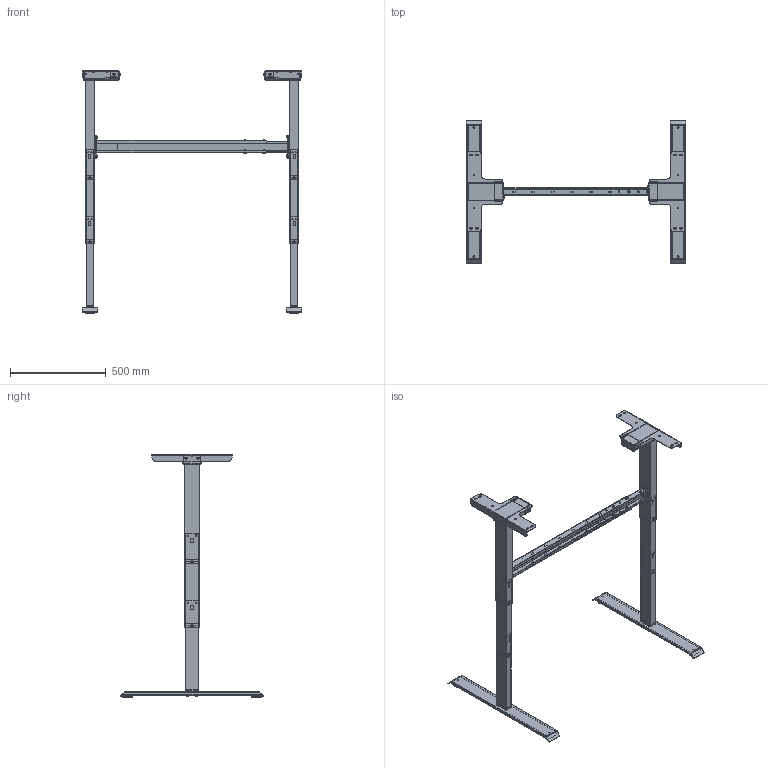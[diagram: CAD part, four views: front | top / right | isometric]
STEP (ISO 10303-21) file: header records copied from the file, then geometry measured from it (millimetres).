
FILE_DESCRIPTION(/* description */ ('Unknown'),/* implementation_level */ '2;1');
FILE_NAME(/* name */ 'Untergestell EBI 2655 S XX XX_00-Ausgefahren',/* time_stamp */ '2026-09-11T13:09:35+02:00',/* author */ ('Unknown'),/* organization */ ('Unknown'),/* preprocessor_version */ 'ST-DEVELOPER v20',/* originating_system */ 'Solid Edge',/* authorisation */ 'Unknown');
FILE_SCHEMA (('AUTOMOTIVE_DESIGN {1 0 10303 214 3 1 1}'));
Products named in the file (19): Untergestell EBI 2655 S XX XX; 127.00826; 127.00828_ohne Regulierfuss; Regulierfuss; 804.00047; EBI Aussenprofil; EBI Mittelprofil; EBI Innenprofil; EBI S Aussenprofil; 127.00846; E1 Traverse aussen S; E1 Traverse innen S; Halbrundkopfschraube M6x16; Scheibe ﾘ6,4; Sechskantmutter M6; Halbrundkopfschraube M8x10; 127.00803; Senkschraube M6x12 S; Halbrundkopfschraube M6x32 S
Assembly tree (46 placements, depth 3):
  Untergestell EBI 2655 S XX XX
    127.00826  x2
      127.00828_ohne Regulierfuss
      Regulierfuss
    804.00047  x2
      EBI Aussenprofil
      EBI Mittelprofil
      EBI Innenprofil
      EBI S Aussenprofil
    127.00846
      E1 Traverse aussen S
      E1 Traverse innen S
      Halbrundkopfschraube M6x16  x4
      Scheibe ﾘ6,4  x4
      Sechskantmutter M6  x4
      Halbrundkopfschraube M8x10  x4
    127.00803  x2
    Senkschraube M6x12 S  x8
    Halbrundkopfschraube M6x32 S  x6
Bounding box: 1145.99 x 749.98 x 1269.5 mm (x, y, z)
Volume: 4144310.3 mm3; surface area: 3778230.7 mm2
Topology: 54 solids, 54 shells, 4569 faces, 12355 edges, 7968 vertices
Faces by surface type: plane 2438, cylinder 1385, cone 306, torus 220, bspline 136, sphere 84
Full cylindrical faces by diameter (mm): 4.5 x8, 5 x32, 5.6 x32, 6 x24, 6.4 x4, 6.8 x4, 7 x16, 7.2 x24, 8 x4, 8.5 x4, 12 x10, 13.6 x4, 14 x4
Entity records: 73661 total; most frequent: CARTESIAN_POINT 16044, ORIENTED_EDGE 11678, DIRECTION 11091, EDGE_CURVE 5839, VERTEX_POINT 3818, LINE 3781, VECTOR 3781, AXIS2_PLACEMENT_3D 3655
